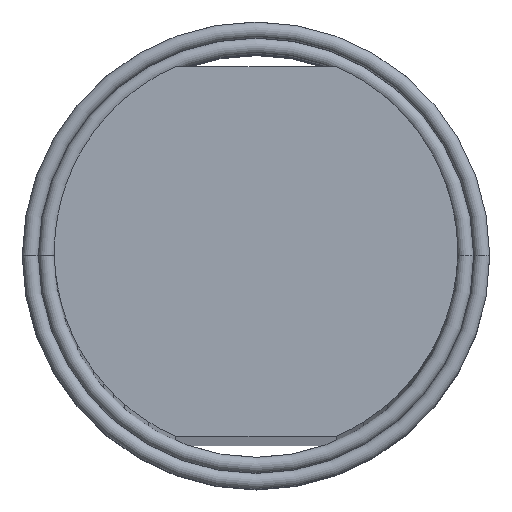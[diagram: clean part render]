
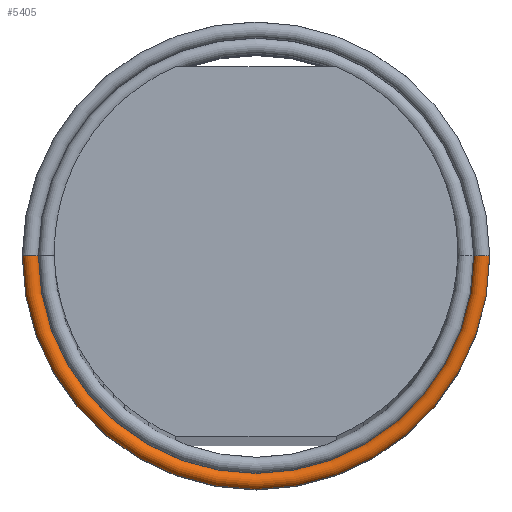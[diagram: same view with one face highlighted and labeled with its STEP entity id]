
A CAD part, top view. The second image highlights one B-rep face of the part: STEP entity #5405.
In plain terms, the highlighted toroidal (fillet/blend) face has major radius 5.6 mm and minor radius 0.2 mm.
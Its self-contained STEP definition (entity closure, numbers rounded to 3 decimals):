
#116=TOROIDAL_SURFACE('',#6231,5.6,0.2);
#512=CIRCLE('',#6223,0.2);
#513=CIRCLE('',#6224,0.2);
#517=CIRCLE('',#6230,0.2);
#518=CIRCLE('',#6232,5.4);
#1097=FACE_OUTER_BOUND('',#1475,.T.);
#1475=EDGE_LOOP('',(#4597,#4598,#4599,#4600,#4601));
#2465=VERTEX_POINT('',#9764);
#2466=VERTEX_POINT('',#9765);
#2467=VERTEX_POINT('',#9772);
#3166=EDGE_CURVE('',#2465,#2466,#512,.T.);
#3167=EDGE_CURVE('',#2466,#2465,#513,.T.);
#3171=EDGE_CURVE('',#2467,#2467,#517,.T.);
#3172=EDGE_CURVE('',#2467,#2466,#518,.T.);
#4597=ORIENTED_EDGE('',*,*,#3171,.F.);
#4598=ORIENTED_EDGE('',*,*,#3172,.T.);
#4599=ORIENTED_EDGE('',*,*,#3166,.F.);
#4600=ORIENTED_EDGE('',*,*,#3167,.F.);
#4601=ORIENTED_EDGE('',*,*,#3172,.F.);
#5405=ADVANCED_FACE('',(#1097),#116,.T.);
#6223=AXIS2_PLACEMENT_3D('',#9766,#8040,#8041);
#6224=AXIS2_PLACEMENT_3D('',#9767,#8042,#8043);
#6230=AXIS2_PLACEMENT_3D('',#9774,#8054,#8055);
#6231=AXIS2_PLACEMENT_3D('',#9775,#8056,#8057);
#6232=AXIS2_PLACEMENT_3D('',#9776,#8058,#8059);
#8040=DIRECTION('center_axis',(0.,1.,0.));
#8041=DIRECTION('ref_axis',(0.,0.,-1.));
#8042=DIRECTION('center_axis',(0.,1.,0.));
#8043=DIRECTION('ref_axis',(0.,0.,-1.));
#8054=DIRECTION('center_axis',(0.,1.,0.));
#8055=DIRECTION('ref_axis',(1.,0.,0.));
#8056=DIRECTION('center_axis',(0.,0.,1.));
#8057=DIRECTION('ref_axis',(-1.,0.,0.));
#8058=DIRECTION('center_axis',(0.,0.,-1.));
#8059=DIRECTION('ref_axis',(-1.,0.,0.));
#9764=CARTESIAN_POINT('',(3.29,6.35,-50.8));
#9765=CARTESIAN_POINT('',(3.49,6.35,-51.));
#9766=CARTESIAN_POINT('Origin',(3.29,6.35,-51.));
#9767=CARTESIAN_POINT('Origin',(3.29,6.35,-51.));
#9772=CARTESIAN_POINT('',(14.29,6.35,-51.));
#9774=CARTESIAN_POINT('Origin',(14.49,6.35,-51.));
#9775=CARTESIAN_POINT('Origin',(8.89,6.35,-51.));
#9776=CARTESIAN_POINT('Origin',(8.89,6.35,-51.));
